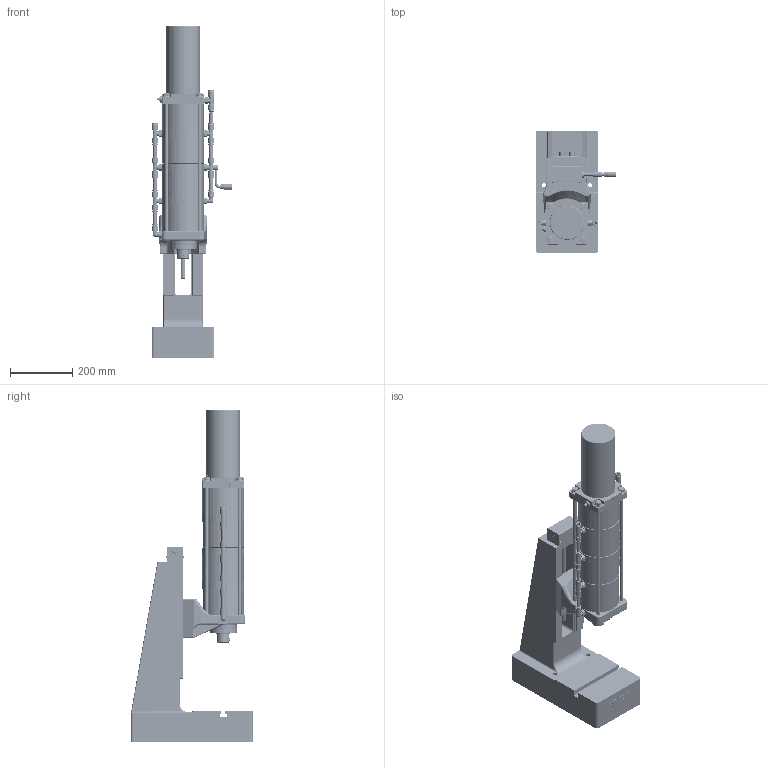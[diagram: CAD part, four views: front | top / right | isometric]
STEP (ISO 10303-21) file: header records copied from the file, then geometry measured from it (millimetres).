
FILE_DESCRIPTION(/* description */ ('Bausatz Ständer T4N HV-OST'),/* implementation_level */ '2;1');
FILE_NAME(/* name */ 'B:\02_CAD_oeffentlich\CAD_3D_oeffentlich_step\Druckluftpresse\DRP_2800_040_130.stp',/* time_stamp */ '2017-08-28T07:07:49+02:00',/* author */ ('Finsterle'),/* organization */ (''),/* preprocessor_version */ 'ST-DEVELOPER v16.1',/* originating_system */ 'Autodesk Inventor 2016',/* authorisation */ '');
FILE_SCHEMA (('AUTOMOTIVE_DESIGN { 1 0 10303 214 3 1 1 }'));
Products named in the file (5): ENG-000753-1_V; ENG-001158_V; HBF-000760; ENG-000755; HBF-001075_V
Assembly tree (5 placements, depth 2):
  HBF-001075_V
    ENG-000753-1_V
    ENG-001158_V
    HBF-000760
    ENG-000755  x2
Bounding box: 259.79 x 393.8 x 1066.92 mm (x, y, z)
Volume: 13908125.3 mm3; surface area: 1913428.1 mm2
Topology: 6 solids, 32 shells, 7972 faces, 21254 edges, 13854 vertices
Faces by surface type: plane 4722, bspline 2118, cylinder 623, cone 265, torus 169, sphere 75
Full cylindrical faces by diameter (mm): 1 x1, 2 x1, 2.4 x3, 2.459 x2, 3 x6, 3.242 x7, 3.5 x2, 3.65 x4, 4 x5, 4.134 x1, 4.2 x2, 4.5 x4, 4.917 x6, 5 x3, 6.2 x4, 6.5 x2, 6.647 x1, 8 x5, 8.4 x1, 8.5 x2, 9 x6, 10 x3, 10.02 x1, 10.5 x4, 11.5 x10, 11.8 x2, 12 x30, 12.5 x4, 13 x24, 13.5 x4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
Entity records: 267112 total; most frequent: CARTESIAN_POINT 78438, ORIENTED_EDGE 40730, DIRECTION 29319, EDGE_CURVE 20336, LINE 13997, VECTOR 13997, VERTEX_POINT 13673, EDGE_LOOP 9317
